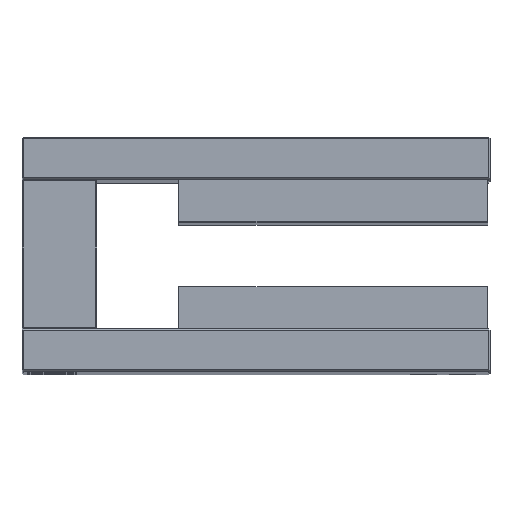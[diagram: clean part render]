
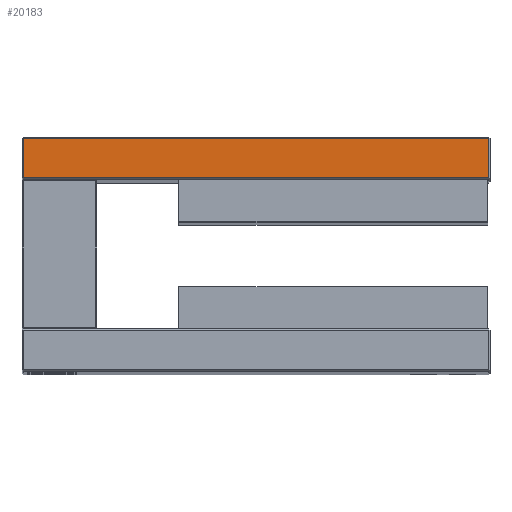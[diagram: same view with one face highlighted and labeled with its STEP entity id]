
A CAD part, top view. The second image highlights one B-rep face of the part: STEP entity #20183.
In plain terms, the highlighted planar face has unit normal (0, 0, 1) as drawn and (-1, 0, 0) by its records, which use the part's own axes.
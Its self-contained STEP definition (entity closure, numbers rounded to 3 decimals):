
#855 = EDGE_CURVE ( 'NONE', #14273, #11117, #16217, .T. ) ;
#977 = VECTOR ( 'NONE', #11120, 1000. ) ;
#1687 = EDGE_CURVE ( 'NONE', #11117, #14106, #11394, .T. ) ;
#2234 = ORIENTED_EDGE ( 'NONE', *, *, #11711, .T. ) ;
#4563 = CARTESIAN_POINT ( 'NONE',  ( 0., 0., 0. ) ) ;
#6257 = CARTESIAN_POINT ( 'NONE',  ( 0., 100., -0.3 ) ) ;
#6486 = DIRECTION ( 'NONE',  ( -1., 0., 0. ) ) ;
#8114 = VECTOR ( 'NONE', #23906, 1000. ) ;
#8623 = VERTEX_POINT ( 'NONE', #13516 ) ;
#9264 = ORIENTED_EDGE ( 'NONE', *, *, #17443, .T. ) ;
#10577 = CARTESIAN_POINT ( 'NONE',  ( 0., 0.3, 0. ) ) ;
#11117 = VERTEX_POINT ( 'NONE', #21457 ) ;
#11120 = DIRECTION ( 'NONE',  ( 0., 0., -1. ) ) ;
#11394 = LINE ( 'NONE', #23049, #21533 ) ;
#11619 = DIRECTION ( 'NONE',  ( 0., -1., 0. ) ) ;
#11711 = EDGE_CURVE ( 'NONE', #8623, #14273, #22612, .T. ) ;
#12077 = PLANE ( 'NONE',  #16239 ) ;
#13516 = CARTESIAN_POINT ( 'NONE',  ( 0., 0.3, -0.3 ) ) ;
#14106 = VERTEX_POINT ( 'NONE', #16392 ) ;
#14273 = VERTEX_POINT ( 'NONE', #22635 ) ;
#16217 = LINE ( 'NONE', #18790, #977 ) ;
#16239 = AXIS2_PLACEMENT_3D ( 'NONE', #4563, #6486, #19826 ) ;
#16392 = CARTESIAN_POINT ( 'NONE',  ( 0., 0.3, -8.7 ) ) ;
#17443 = EDGE_CURVE ( 'NONE', #14106, #8623, #18259, .T. ) ;
#17971 = EDGE_LOOP ( 'NONE', ( #9264, #2234, #22059, #18513 ) ) ;
#18259 = LINE ( 'NONE', #10577, #8114 ) ;
#18513 = ORIENTED_EDGE ( 'NONE', *, *, #1687, .T. ) ;
#18790 = CARTESIAN_POINT ( 'NONE',  ( 0., 99.7, -9. ) ) ;
#19592 = DIRECTION ( 'NONE',  ( 0., 1., 0. ) ) ;
#19826 = DIRECTION ( 'NONE',  ( 0., 0., 1. ) ) ;
#20183 = ADVANCED_FACE ( 'NONE', ( #21462 ), #12077, .T. ) ;
#21457 = CARTESIAN_POINT ( 'NONE',  ( 0., 99.7, -8.7 ) ) ;
#21462 = FACE_OUTER_BOUND ( 'NONE', #17971, .T. ) ;
#21533 = VECTOR ( 'NONE', #11619, 1000. ) ;
#22059 = ORIENTED_EDGE ( 'NONE', *, *, #855, .T. ) ;
#22612 = LINE ( 'NONE', #6257, #23203 ) ;
#22635 = CARTESIAN_POINT ( 'NONE',  ( 0., 99.7, -0.3 ) ) ;
#23049 = CARTESIAN_POINT ( 'NONE',  ( 0., 0., -8.7 ) ) ;
#23203 = VECTOR ( 'NONE', #19592, 1000. ) ;
#23906 = DIRECTION ( 'NONE',  ( 0., 0., 1. ) ) ;
